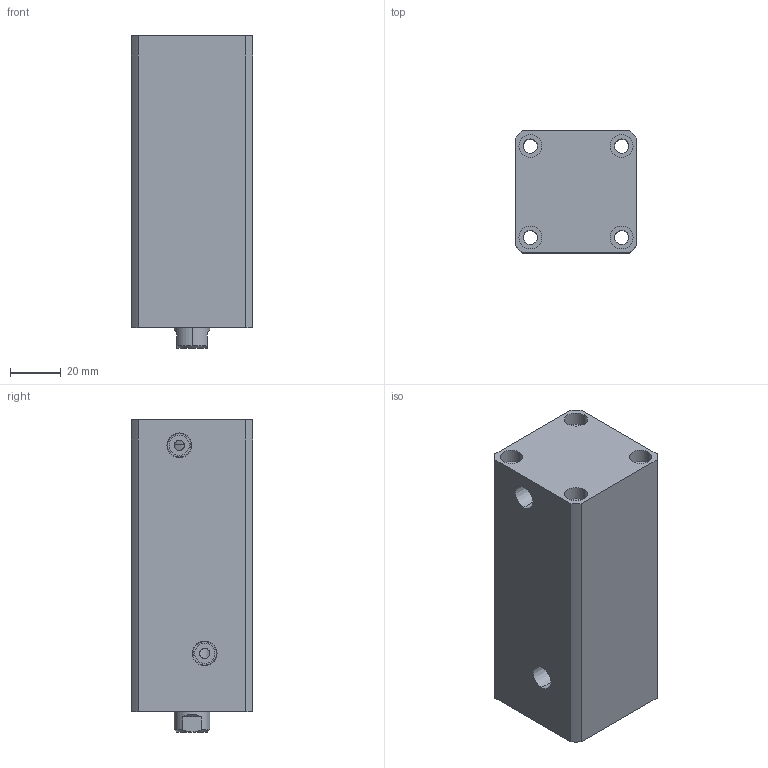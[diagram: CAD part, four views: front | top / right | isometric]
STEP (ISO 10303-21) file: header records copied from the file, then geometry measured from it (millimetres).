
FILE_DESCRIPTION (( 'STEP AP214' ), '1' );
FILE_NAME ('chtb-sd25x70n_asm.STEP', '2018-05-22T12:34:08', ( 'Windows' ), ( 'Microsoft' ), 'SwSTEP 2.0', 'SolidWorks 2015', '' );
FILE_SCHEMA (( 'AUTOMOTIVE_DESIGN' ));
Length unit declared in the file: millimetre
Products named in the file (4): CHTB-SD25X70NHSG; CHTB-SD25X70NBT; CHTB-25QG; chtb-sd25x70n_asm
Assembly tree (3 placements, depth 2):
  chtb-sd25x70n_asm
    CHTB-25QG
    CHTB-SD25X70NBT
    CHTB-SD25X70NHSG
Bounding box: 48 x 48 x 123 mm (x, y, z)
Volume: 224009.7 mm3; surface area: 56231.5 mm2
Topology: 3 solids, 3 shells, 144 faces, 377 edges, 257 vertices
Faces by surface type: cylinder 85, plane 36, cone 13, bspline 10
Entity records: 7940 total; most frequent: CARTESIAN_POINT 4299, ORIENTED_EDGE 742, DIRECTION 671, EDGE_CURVE 371, AXIS2_PLACEMENT_3D 278, VERTEX_POINT 257, EDGE_LOOP 182, FACE_OUTER_BOUND 144
